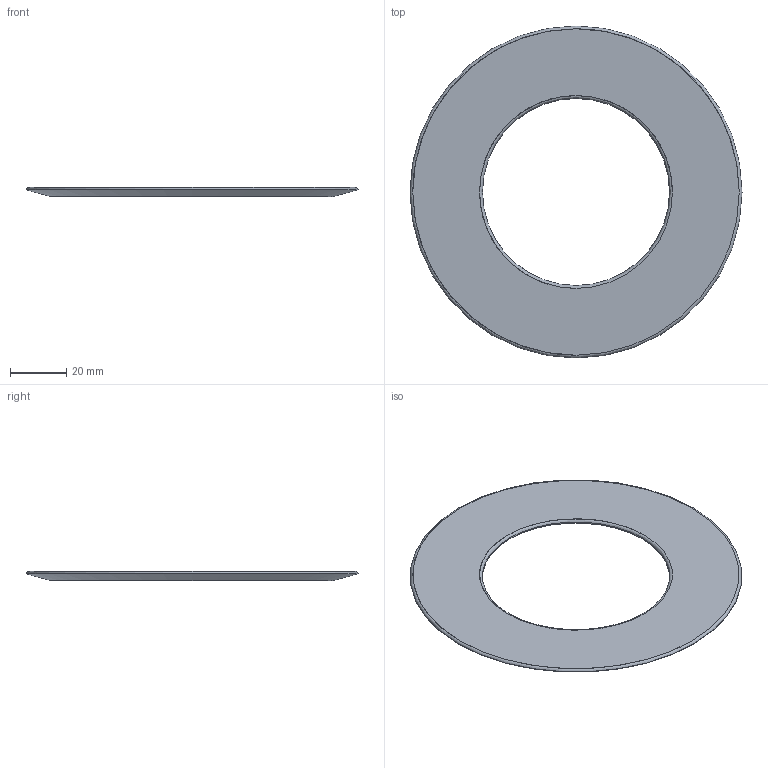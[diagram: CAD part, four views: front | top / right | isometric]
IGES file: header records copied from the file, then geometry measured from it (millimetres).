
Start section: --------------------------------------------------------------------- IGES file generated by CADlook_v12.0.  Visit http://www.cadlook.com for more information on CADlook translators and viewers. ---------------------------------------------------------------------
Global section: file name: X:\progetto-gas\File_clienti\Europa\DC_SerieII\CAPP_DC_02-A2.igs; native system: Cimatron E 9.0; preprocessor: CADlook_v12.0; author: aquintaba; organization: None; date: 20110119.102945; units: millimetre
Bounding box: 117.73 x 117.73 x 3.22 mm (x, y, z)
Surface area: 15330.2 mm2 (no closed solid volume)
Topology: 0 solids, 0 shells, 8 faces, 64 edges, 76 vertices
Faces by surface type: revolution 6, bspline 2
